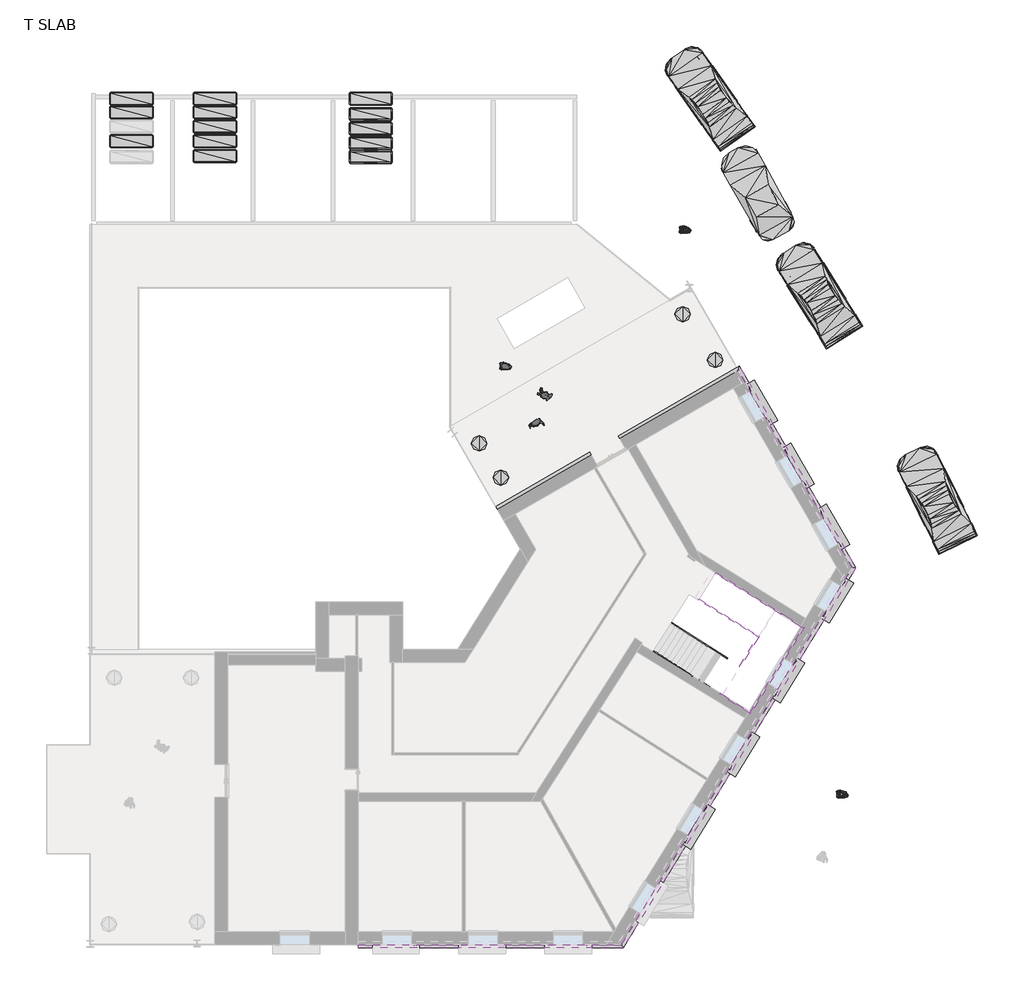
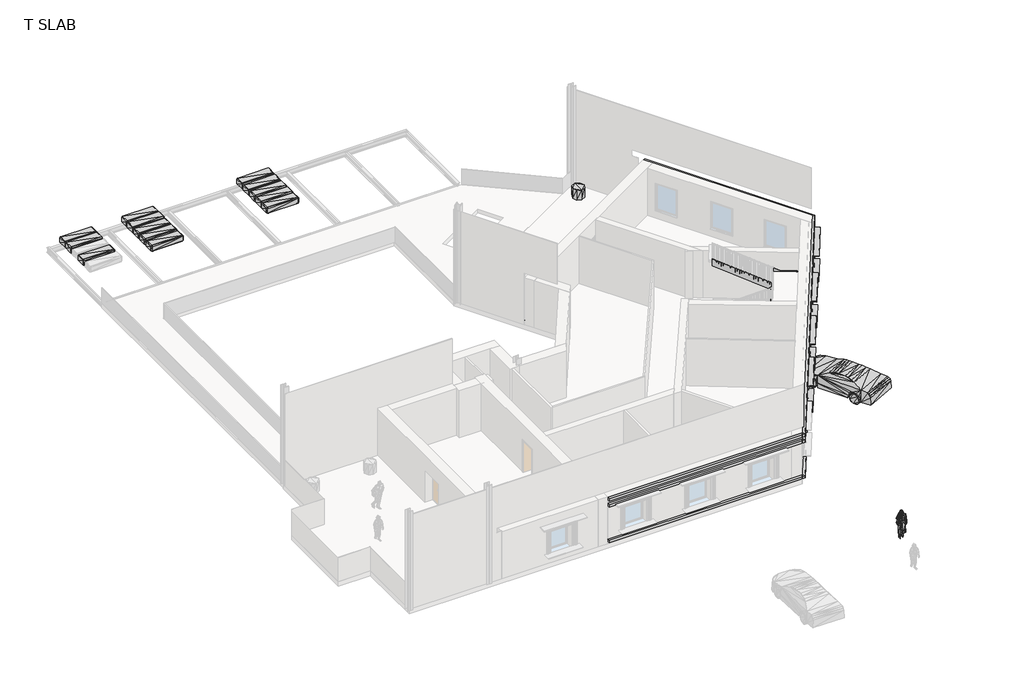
# One storey, part 3 of 3: 26 geographic elements, 10 proxies, 8 members.
"""IFC4 building model written with IfcOpenShell, lengths in millimetres."""

from ifc_helpers import new_model, si_unit, frame, origin, place, context, project, spatial, polyline, outline, extrude, faceted_brep, transform, mapped, element, save
from components import type_1_d73fb033, geographic_element_3335acbb, geographic_element_6e2c9092, geographic_element_03cdde9f, geographic_element_5954a063, geographic_element_3de9c337, enscape_assetdefinition_car_003_enscape_assetdefinition_car_cb408bfd, enscape_assetdefinition_car_006_enscape_assetdefinition_car_d59dc931

model = new_model("IFC4")

# Units and contexts
model_context = context("Model", 3, world=origin())
ifc_project = project(units=[si_unit("LENGTHUNIT", "METRE", prefix="MILLI")], contexts=[model_context])

# Site, building, storey
site = spatial("IfcSite", under=ifc_project)
building = spatial("IfcBuilding", under=site)
storey = spatial("IfcBuildingStorey", under=building, Name="T SLAB", Elevation=11500.0)

# Proxies
placement = place(None, origin())
element("IfcBuildingElementProxy", 1, Name="Cornice", ObjectType="Cornice", at=placement, inside=storey, context=model_context, shape_type="SweptSolid", body=[
    extrude(outline(polyline([(11036.4091885, -4009.9711746), (11121.8023054, -4162.3711746), (-1076.9484639, -4162.3711746), (-1076.9484639, -4009.9711746), (11036.4091885, -4009.9711746)])), frame((0.0, 0.0, 14400.0), z_axis=(0.0, 0.0, 1.0), x_axis=(1.0, 0.0, 0.0)), (0.0, 0.0, 1.0), 152.4),
    extrude(outline(polyline([(21667.737182, 13356.3028492), (21845.0304968, 13354.0218202), (11121.8023054, -4162.3711746), (11036.4091885, -4009.9711746), (21667.737182, 13356.3028492)])), frame((0.0, 0.0, 14400.0), z_axis=(0.0, 0.0, 1.0), x_axis=(1.0, 0.0, 0.0)), (0.0, 0.0, 1.0), 152.4),
    extrude(outline(polyline([(16417.1617815, 22450.5662118), (16549.1440531, 22526.7662118), (21845.0304968, 13354.0218202), (21667.737182, 13356.3028492), (16417.1617815, 22450.5662118)])), frame((0.0, 0.0, 14400.0), z_axis=(0.0, 0.0, 1.0), x_axis=(1.0, 0.0, 0.0)), (0.0, 0.0, 1.0), 152.4),
])
element("IfcBuildingElementProxy", 2, Name="Cornice", ObjectType="Cornice", at=placement, inside=storey, context=model_context, shape_type="SweptSolid", body=[
    extrude(outline(polyline([(11036.4091885, -4009.9711746), (11121.8023054, -4162.3711746), (-1076.9484639, -4162.3711746), (-1076.9484639, -4009.9711746), (11036.4091885, -4009.9711746)])), frame((0.0, 0.0, 14000.0), z_axis=(0.0, 0.0, 1.0), x_axis=(1.0, 0.0, 0.0)), (0.0, 0.0, 1.0), 152.4),
    extrude(outline(polyline([(21667.737182, 13356.3028492), (21845.0304968, 13354.0218202), (11121.8023054, -4162.3711746), (11036.4091885, -4009.9711746), (21667.737182, 13356.3028492)])), frame((0.0, 0.0, 14000.0), z_axis=(0.0, 0.0, 1.0), x_axis=(1.0, 0.0, 0.0)), (0.0, 0.0, 1.0), 152.4),
    extrude(outline(polyline([(16417.1617815, 22450.5662118), (16549.1440531, 22526.7662118), (21845.0304968, 13354.0218202), (21667.737182, 13356.3028492), (16417.1617815, 22450.5662118)])), frame((0.0, 0.0, 14000.0), z_axis=(0.0, 0.0, 1.0), x_axis=(1.0, 0.0, 0.0)), (0.0, 0.0, 1.0), 152.4),
])
element("IfcBuildingElementProxy", 3, Name="Cornice", ObjectType="Cornice", at=placement, inside=storey, context=model_context, shape_type="SweptSolid", body=[
    extrude(outline(polyline([(11036.4091885, -4009.9711746), (11121.8023054, -4162.3711746), (-1076.9484639, -4162.3711746), (-1076.9484639, -4009.9711746), (11036.4091885, -4009.9711746)])), frame((0.0, 0.0, 11652.4), z_axis=(0.0, 0.0, 1.0), x_axis=(1.0, 0.0, 0.0)), (0.0, 0.0, 1.0), 152.4),
    extrude(outline(polyline([(21667.737182, 13356.3028492), (21845.0304968, 13354.0218202), (11121.8023054, -4162.3711746), (11036.4091885, -4009.9711746), (21667.737182, 13356.3028492)])), frame((0.0, 0.0, 11652.4), z_axis=(0.0, 0.0, 1.0), x_axis=(1.0, 0.0, 0.0)), (0.0, 0.0, 1.0), 152.4),
    extrude(outline(polyline([(16417.1617815, 22450.5662118), (16472.9440531, 22658.7484834), (21845.0304968, 13354.0218202), (21667.737182, 13356.3028492), (16417.1617815, 22450.5662118)])), frame((0.0, 0.0, 11652.4), z_axis=(0.0, 0.0, 1.0), x_axis=(1.0, 0.0, 0.0)), (0.0, 0.0, 1.0), 152.4),
    extrude(outline(polyline([(16472.9440531, 22658.7484834), (16417.1617815, 22450.5662118), (10969.2740305, 19305.2267522), (10893.0740305, 19437.2090238), (16472.9440531, 22658.7484834)])), frame((0.0, 0.0, 11652.4), z_axis=(0.0, 0.0, 1.0), x_axis=(1.0, 0.0, 0.0)), (0.0, 0.0, 1.0), 152.4),
    extrude(outline(polyline([(5332.0366131, 16050.5662118), (5255.8366131, 16182.5484834), (9585.3756708, 18682.2090238), (9661.5756708, 18550.2267522), (5332.0366131, 16050.5662118)])), frame((0.0, 0.0, 11652.4), z_axis=(0.0, 0.0, 1.0), x_axis=(1.0, 0.0, 0.0)), (0.0, 0.0, 1.0), 152.4),
])
type_1_shape = type_1_d73fb033(model_context)
element("IfcBuildingElementProxy", 4, Name="Family1.rfa1222wcd31 : Type 1", ObjectType="Family1.rfa1222wcd31 : Type 1", at=placement, inside=storey, context=model_context, shape_type="MappedRepresentation", body=[
    mapped(type_1_shape, transform((14234.7402588, 1789.0884863, 11250.0), x_axis=(-0.5221151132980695, -0.852875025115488, 0.0), y_axis=(0.852875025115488, -0.5221151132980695, 0.0), z_axis=(0.0, 0.0, 1.0))),
])
element("IfcBuildingElementProxy", 5, Name="Family1.rfa1222wcd31 : Type 1", ObjectType="Family1.rfa1222wcd31 : Type 1", at=placement, inside=storey, context=model_context, shape_type="MappedRepresentation", body=[
    mapped(type_1_shape, transform((20617.5429885, 12215.396593, 11250.0), x_axis=(-0.5221151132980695, -0.852875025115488, 0.0), y_axis=(0.852875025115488, -0.5221151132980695, 0.0), z_axis=(0.0, 0.0, 1.0))),
])
element("IfcBuildingElementProxy", 6, Name="Family1.rfa1222wcd31 : Type 1", ObjectType="Family1.rfa1222wcd31 : Type 1", at=placement, inside=storey, context=model_context, shape_type="MappedRepresentation", body=[
    mapped(type_1_shape, transform((20315.4791604, 15098.4824476, 11250.0), x_axis=(0.4999999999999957, -0.8660254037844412, 0.0), y_axis=(0.8660254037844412, 0.4999999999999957, 0.0), z_axis=(0.0, 0.0, 1.0))),
])
element("IfcBuildingElementProxy", 7, Name="Family1.rfa1222wcd31 : Type 1", ObjectType="Family1.rfa1222wcd31 : Type 1", at=placement, inside=storey, context=model_context, shape_type="MappedRepresentation", body=[
    mapped(type_1_shape, transform((18695.009605, 17905.2180497, 11250.0), x_axis=(0.4999999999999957, -0.8660254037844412, 0.0), y_axis=(0.8660254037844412, 0.4999999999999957, 0.0), z_axis=(0.0, 0.0, 1.0))),
])
element("IfcBuildingElementProxy", 8, Name="Family1.rfa1222wcd31 : Type 1", ObjectType="Family1.rfa1222wcd31 : Type 1", at=placement, inside=storey, context=model_context, shape_type="MappedRepresentation", body=[
    mapped(type_1_shape, transform((17014.8541604, 20815.3326443, 11250.0), x_axis=(0.4999999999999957, -0.8660254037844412, 0.0), y_axis=(0.8660254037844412, 0.4999999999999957, 0.0), z_axis=(0.0, 0.0, 1.0))),
])
element("IfcBuildingElementProxy", 9, Name="Family1.rfa1222wcd31 : Type 1", ObjectType="Family1.rfa1222wcd31 : Type 1", at=placement, inside=storey, context=model_context, shape_type="MappedRepresentation", body=[
    mapped(type_1_shape, transform((18372.4480013, 8548.033985, 11250.0), x_axis=(-0.5221151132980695, -0.852875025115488, 0.0), y_axis=(0.852875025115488, -0.5221151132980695, 0.0), z_axis=(0.0, 0.0, 1.0))),
])
element("IfcBuildingElementProxy", 10, Name="Family1.rfa1222wcd31 : Type 1", ObjectType="Family1.rfa1222wcd31 : Type 1", at=placement, inside=storey, context=model_context, shape_type="MappedRepresentation", body=[
    mapped(type_1_shape, transform((16283.3466329, 5135.4869495, 11250.0), x_axis=(-0.5221151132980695, -0.852875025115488, 0.0), y_axis=(0.852875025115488, -0.5221151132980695, 0.0), z_axis=(0.0, 0.0, 1.0))),
])

# Geographic elements
geographic_element_shape = geographic_element_3335acbb(model_context)
element("IfcGeographicElement", 11, ObjectType="Enscape AssetDefinition - Bush 015 English Laurel : Enscape AssetDefinition - Bush 015 English Laurel", at=placement, inside=storey, context=model_context, shape_type="MappedRepresentation", body=[
    mapped(geographic_element_shape, transform((5493.3125017, 17512.9048562, 11500.0), x_axis=(1.0, 0.0, 0.0), y_axis=(0.0, 1.0, 0.0), z_axis=(0.0, 0.0, 1.0))),
])
element("IfcGeographicElement", 12, ObjectType="Enscape AssetDefinition - Bush 015 English Laurel : Enscape AssetDefinition - Bush 015 English Laurel", at=placement, inside=storey, context=model_context, shape_type="MappedRepresentation", body=[
    mapped(geographic_element_shape, transform((4493.3125017, 19090.0288254, 11500.0), x_axis=(1.0, 0.0, 0.0), y_axis=(0.0, 1.0, 0.0), z_axis=(0.0, 0.0, 1.0))),
])
element("IfcGeographicElement", 13, ObjectType="Enscape AssetDefinition - Bush 015 English Laurel : Enscape AssetDefinition - Bush 015 English Laurel", at=placement, inside=storey, context=model_context, shape_type="MappedRepresentation", body=[
    mapped(geographic_element_shape, transform((15360.5515361, 22930.6688407, 11500.0), x_axis=(1.0, 0.0, 0.0), y_axis=(0.0, 1.0, 0.0), z_axis=(0.0, 0.0, 1.0))),
])
element("IfcGeographicElement", 14, ObjectType="Enscape AssetDefinition - Bush 015 English Laurel : Enscape AssetDefinition - Bush 015 English Laurel", at=placement, inside=storey, context=model_context, shape_type="MappedRepresentation", body=[
    mapped(geographic_element_shape, transform((13860.5515361, 25034.896906, 11500.0), x_axis=(1.0, 0.0, 0.0), y_axis=(0.0, 1.0, 0.0), z_axis=(0.0, 0.0, 1.0))),
])
geographic_element_2_shape = geographic_element_6e2c9092(model_context)
element("IfcGeographicElement", 15, ObjectType="Enscape AssetDefinition - Hedge 006 English Laurel : Enscape AssetDefinition - Hedge 006 English Laurel", at=placement, inside=storey, context=model_context, shape_type="MappedRepresentation", body=[
    mapped(geographic_element_2_shape, transform((-501.6874983, 34969.4809735, 11500.0), x_axis=(1.0, 0.0, 0.0), y_axis=(0.0, 1.0, 0.0), z_axis=(0.0, 0.0, 1.0))),
])
element("IfcGeographicElement", 16, ObjectType="Enscape AssetDefinition - Hedge 006 English Laurel : Enscape AssetDefinition - Hedge 006 English Laurel", at=placement, inside=storey, context=model_context, shape_type="MappedRepresentation", body=[
    mapped(geographic_element_2_shape, transform((-7676.9484639, 34969.4809735, 11500.0), x_axis=(1.0, 0.0, 0.0), y_axis=(0.0, 1.0, 0.0), z_axis=(0.0, 0.0, 1.0))),
])
element("IfcGeographicElement", 17, ObjectType="Enscape AssetDefinition - Hedge 006 English Laurel : Enscape AssetDefinition - Hedge 006 English Laurel", at=placement, inside=storey, context=model_context, shape_type="MappedRepresentation", body=[
    mapped(geographic_element_2_shape, transform((-11521.6874983, 34969.4809735, 11500.0), x_axis=(1.0, 0.0, 0.0), y_axis=(0.0, 1.0, 0.0), z_axis=(0.0, 0.0, 1.0))),
])
element("IfcGeographicElement", 18, ObjectType="Enscape AssetDefinition - Hedge 006 English Laurel : Enscape AssetDefinition - Hedge 006 English Laurel", at=placement, inside=storey, context=model_context, shape_type="MappedRepresentation", body=[
    mapped(geographic_element_2_shape, transform((-11521.6874983, 34351.9809735, 11500.0), x_axis=(1.0, 0.0, 0.0), y_axis=(0.0, 1.0, 0.0), z_axis=(0.0, 0.0, 1.0))),
])
element("IfcGeographicElement", 19, ObjectType="Enscape AssetDefinition - Hedge 006 English Laurel : Enscape AssetDefinition - Hedge 006 English Laurel", at=placement, inside=storey, context=model_context, shape_type="MappedRepresentation", body=[
    mapped(geographic_element_2_shape, transform((-7676.9484639, 34351.9809735, 11500.0), x_axis=(1.0, 0.0, 0.0), y_axis=(0.0, 1.0, 0.0), z_axis=(0.0, 0.0, 1.0))),
])
element("IfcGeographicElement", 20, ObjectType="Enscape AssetDefinition - Hedge 006 English Laurel : Enscape AssetDefinition - Hedge 006 English Laurel", at=placement, inside=storey, context=model_context, shape_type="MappedRepresentation", body=[
    mapped(geographic_element_2_shape, transform((-7676.9484639, 33675.6346481, 11500.0), x_axis=(1.0, 0.0, 0.0), y_axis=(0.0, 1.0, 0.0), z_axis=(0.0, 0.0, 1.0))),
])
element("IfcGeographicElement", 21, ObjectType="Enscape AssetDefinition - Hedge 006 English Laurel : Enscape AssetDefinition - Hedge 006 English Laurel", at=placement, inside=storey, context=model_context, shape_type="MappedRepresentation", body=[
    mapped(geographic_element_2_shape, transform((-501.6874983, 34264.3281591, 11500.0), x_axis=(1.0, 0.0, 0.0), y_axis=(0.0, 1.0, 0.0), z_axis=(0.0, 0.0, 1.0))),
])
element("IfcGeographicElement", 22, ObjectType="Enscape AssetDefinition - Hedge 006 English Laurel : Enscape AssetDefinition - Hedge 006 English Laurel", at=placement, inside=storey, context=model_context, shape_type="MappedRepresentation", body=[
    mapped(geographic_element_2_shape, transform((-501.6874983, 32929.8270147, 11500.0), x_axis=(1.0, 0.0, 0.0), y_axis=(0.0, 1.0, 0.0), z_axis=(0.0, 0.0, 1.0))),
])
element("IfcGeographicElement", 23, ObjectType="Enscape AssetDefinition - Hedge 006 English Laurel : Enscape AssetDefinition - Hedge 006 English Laurel", at=placement, inside=storey, context=model_context, shape_type="MappedRepresentation", body=[
    mapped(geographic_element_2_shape, transform((-501.6874983, 33580.6772616, 11500.0), x_axis=(1.0, 0.0, 0.0), y_axis=(0.0, 1.0, 0.0), z_axis=(0.0, 0.0, 1.0))),
])
element("IfcGeographicElement", 24, ObjectType="Enscape AssetDefinition - Hedge 006 English Laurel : Enscape AssetDefinition - Hedge 006 English Laurel", at=placement, inside=storey, context=model_context, shape_type="MappedRepresentation", body=[
    mapped(geographic_element_2_shape, transform((-11521.6874983, 33013.9999525, 11500.0), x_axis=(1.0, 0.0, 0.0), y_axis=(0.0, 1.0, 0.0), z_axis=(0.0, 0.0, 1.0))),
])
element("IfcGeographicElement", 25, ObjectType="Enscape AssetDefinition - Hedge 006 English Laurel : Enscape AssetDefinition - Hedge 006 English Laurel", at=placement, inside=storey, context=model_context, shape_type="MappedRepresentation", body=[
    mapped(geographic_element_2_shape, transform((-7676.9484639, 33013.9999525, 11500.0), x_axis=(1.0, 0.0, 0.0), y_axis=(0.0, 1.0, 0.0), z_axis=(0.0, 0.0, 1.0))),
])
element("IfcGeographicElement", 26, ObjectType="Enscape AssetDefinition - Hedge 006 English Laurel : Enscape AssetDefinition - Hedge 006 English Laurel", at=placement, inside=storey, context=model_context, shape_type="MappedRepresentation", body=[
    mapped(geographic_element_2_shape, transform((-7676.9484639, 32313.9999525, 11500.0), x_axis=(1.0, 0.0, 0.0), y_axis=(0.0, 1.0, 0.0), z_axis=(0.0, 0.0, 1.0))),
])
element("IfcGeographicElement", 27, ObjectType="Enscape AssetDefinition - Hedge 006 English Laurel : Enscape AssetDefinition - Hedge 006 English Laurel", at=placement, inside=storey, context=model_context, shape_type="MappedRepresentation", body=[
    mapped(geographic_element_2_shape, transform((-501.6874983, 32287.4411665, 11500.0), x_axis=(1.0, 0.0, 0.0), y_axis=(0.0, 1.0, 0.0), z_axis=(0.0, 0.0, 1.0))),
])
geographic_element_3_shape = geographic_element_03cdde9f(model_context)
element("IfcGeographicElement", 28, ObjectType="Enscape AssetDefinition - Aamina 001 Standing : Enscape AssetDefinition - Aamina 001 Standing", at=placement, inside=storey, context=model_context, shape_type="MappedRepresentation", body=[
    mapped(geographic_element_3_shape, transform((21142.6063983, 2865.0288254, 0.0), x_axis=(1.0, 0.0, 0.0), y_axis=(0.0, 1.0, 0.0), z_axis=(0.0, 0.0, 1.0))),
])
element("IfcGeographicElement", 29, ObjectType="Enscape AssetDefinition - Aamina 001 Standing : Enscape AssetDefinition - Aamina 001 Standing", at=placement, inside=storey, context=model_context, shape_type="MappedRepresentation", body=[
    mapped(geographic_element_3_shape, transform((13901.9425222, 28879.987304, 150.0), x_axis=(1.0, 0.0, 0.0), y_axis=(0.0, 1.0, 0.0), z_axis=(0.0, 0.0, 1.0))),
])
element("IfcGeographicElement", 30, ObjectType="Enscape AssetDefinition - Aamina 001 Standing : Enscape AssetDefinition - Aamina 001 Standing", at=placement, inside=storey, context=model_context, shape_type="MappedRepresentation", body=[
    mapped(geographic_element_3_shape, transform((5632.0366131, 22592.1681881, 11500.0), x_axis=(1.0, 0.0, 0.0), y_axis=(0.0, 1.0, 0.0), z_axis=(0.0, 0.0, 1.0))),
])
geographic_element_4_shape = geographic_element_5954a063(model_context)
element("IfcGeographicElement", 31, ObjectType="Enscape AssetDefinition - Aimee 002 Standing : Enscape AssetDefinition - Aimee 002 Standing", at=placement, inside=storey, context=model_context, shape_type="MappedRepresentation", body=[
    mapped(geographic_element_4_shape, transform((7033.3125017, 19992.1681881, 11500.0), x_axis=(1.0, 0.0, 0.0), y_axis=(0.0, 1.0, 0.0), z_axis=(0.0, 0.0, 1.0))),
])
geographic_element_5_shape = geographic_element_3de9c337(model_context)
element("IfcGeographicElement", 32, ObjectType="Enscape AssetDefinition - Alex 004 Walking : Enscape AssetDefinition - Alex 004 Walking", at=placement, inside=storey, context=model_context, shape_type="MappedRepresentation", body=[
    mapped(geographic_element_5_shape, transform((7496.1132406, 21341.4483196, 11500.0), x_axis=(1.0, 0.0, 0.0), y_axis=(0.0, 1.0, 0.0), z_axis=(0.0, 0.0, 1.0))),
])
enscape_assetdefinition_car_003_enscape_assetdefinition_car_shape = enscape_assetdefinition_car_003_enscape_assetdefinition_car_cb408bfd(model_context)
element("IfcGeographicElement", 33, ObjectType="Enscape AssetDefinition - Car 003 : Enscape AssetDefinition - Car 003", at=placement, inside=storey, context=model_context, shape_type="MappedRepresentation", body=[
    mapped(enscape_assetdefinition_car_003_enscape_assetdefinition_car_shape, transform((25451.2460234, 16672.9678436, 0.0), x_axis=(0.8987940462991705, 0.4383711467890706, 0.0), y_axis=(-0.4383711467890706, 0.8987940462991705, 0.0), z_axis=(0.0, 0.0, 1.0))),
])
element("IfcGeographicElement", 34, ObjectType="Enscape AssetDefinition - Car 003 : Enscape AssetDefinition - Car 003", at=placement, inside=storey, context=model_context, shape_type="MappedRepresentation", body=[
    mapped(enscape_assetdefinition_car_003_enscape_assetdefinition_car_shape, transform((14956.7188923, 35169.1142232, 0.0), x_axis=(0.8191520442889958, 0.5735764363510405, 0.0), y_axis=(-0.5735764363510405, 0.8191520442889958, 0.0), z_axis=(0.0, 0.0, 1.0))),
])
element("IfcGeographicElement", 35, ObjectType="Enscape AssetDefinition - Car 003 : Enscape AssetDefinition - Car 003", at=placement, inside=storey, context=model_context, shape_type="MappedRepresentation", body=[
    mapped(enscape_assetdefinition_car_003_enscape_assetdefinition_car_shape, transform((19998.7670951, 26102.0965853, 0.0), x_axis=(0.8495879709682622, 0.5274469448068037, 0.0), y_axis=(-0.5274469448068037, 0.8495879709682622, 0.0), z_axis=(0.0, 0.0, 1.0))),
])
enscape_assetdefinition_car_006_enscape_assetdefinition_car_shape = enscape_assetdefinition_car_006_enscape_assetdefinition_car_d59dc931(model_context)
element("IfcGeographicElement", 36, ObjectType="Enscape AssetDefinition - Car 006 : Enscape AssetDefinition - Car 006", at=placement, inside=storey, context=model_context, shape_type="MappedRepresentation", body=[
    mapped(enscape_assetdefinition_car_006_enscape_assetdefinition_car_shape, transform((17183.7278303, 30857.5980178, 0.0), x_axis=(0.8746197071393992, 0.484809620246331, 0.0), y_axis=(-0.484809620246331, 0.8746197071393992, 0.0), z_axis=(0.0, 0.0, 1.0))),
])

# Members
element("IfcMember", 37, ObjectType="Stringer-50mm_Width", at=placement, inside=storey, context=model_context, shape_type="Brep", body=[
    faceted_brep([(13333.7710975, 10803.6073112, 11500.0), (13360.7054362, 10845.7326171, 11500.0), (13772.7568475, 10582.2726367, 11500.0), (13745.8225088, 10540.1473308, 11500.0), (16459.1802327, 8805.2638833, 13409.1031748), (16459.1802327, 8805.2638833, 13002.936984), (16485.6201831, 8847.7052942, 13002.6631408), (16485.6201831, 8847.7052942, 13409.1031748), (13333.7710975, 10803.6073112, 11713.1753632), (16395.5487208, 8845.948993, 13409.1031748), (13360.7054362, 10845.7326171, 11713.1753632), (16422.4830595, 8888.0742989, 13409.1031748)], [[[0, 1, 2, 3]], [[4, 5, 6, 7]], [[8, 0, 3, 5, 4, 9]], [[1, 10, 11, 7, 6, 2]], [[11, 9, 4, 7]], [[8, 10, 1, 0]], [[2, 6, 5, 3]], [[10, 8, 9, 11]]]),
])
element("IfcMember", 38, ObjectType="Stringer-50mm_Width", at=placement, inside=storey, context=model_context, shape_type="SweptSolid", body=[
    extrude(outline(polyline([(186.6666667, -400.0), (96.517904, -206.82408), (539.7123611, 0.0), (4108.298417, 0.0), (4197.0381516, -400.0), (186.6666667, -400.0)])), frame((12498.8065977, 9497.7228278, 11271.763487), z_axis=(0.5386867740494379, 0.8425061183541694, 0.0), x_axis=(0.7634648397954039, -0.4881488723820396, 0.4228854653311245)), (0.0, 0.0, 1.0), 50.0),
])
element("IfcMember", 39, ObjectType="Stringer-50mm_Width", at=placement, inside=storey, context=model_context, shape_type="SweptSolid", body=[
    extrude(outline(polyline([(-186.6666667, -400.0), (0.0, 0.0), (3586.4714941, 0.0), (3399.8048274, -400.0), (-186.6666667, -400.0)])), frame((17356.4678678, 10151.029683, 13579.8420299), z_axis=(0.528762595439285, 0.8487697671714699, 0.0), x_axis=(-0.7691408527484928, 0.47915574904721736, 0.4228854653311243)), (0.0, 0.0, 1.0), 50.0),
])
element("IfcMember", 40, ObjectType="Stringer-50mm_Width", at=placement, inside=storey, context=model_context, shape_type="SweptSolid", body=[
    extrude(outline(polyline([(-492.4870116, -400.0), (-403.747277, 0.0), (3586.4714941, 0.0), (3399.8048274, -400.0), (-492.4870116, -400.0)])), frame((18121.9733564, 11379.8191642, 13579.8420299), z_axis=(0.5287625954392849, 0.8487697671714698, 0.0), x_axis=(-0.7691408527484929, 0.4791557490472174, 0.42288546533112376)), (0.0, 0.0, 1.0), 50.0),
])
element("IfcMember", 41, ObjectType="Stringer-50mm_Width", at=placement, inside=storey, context=model_context, shape_type="SweptSolid", body=[
    extrude(outline(polyline([(17314.0293794, 10177.4678128), (17356.4678678, 10151.029683), (16501.3084396, 8778.3276897), (16459.1802327, 8805.2638833), (17314.0293794, 10177.4678128)])), frame((0.0, 0.0, 13009.1031748), z_axis=(0.0, 0.0, 1.0), x_axis=(1.0, 0.0, 0.0)), (0.0, 0.0, 1.0), 400.0),
])
element("IfcMember", 42, ObjectType="Stringer-50mm_Width", at=placement, inside=storey, context=model_context, shape_type="Brep", body=[
    faceted_brep([(15587.5185597, 7582.1898155, 13409.1031748), (15560.584221, 7540.0645096, 13409.1031748), (16987.6443899, 6627.6219504, 13409.1031748), (16971.9561334, 6696.9995549, 13409.1031748), (15662.2823292, 7534.3868941, 13009.1031748), (16971.9561334, 6696.9995549, 13009.1031748), (15635.3479904, 7492.2615881, 13009.1031748), (16987.6443899, 6627.6219504, 13009.1031748)], [[[0, 1, 2, 3]], [[4, 0, 3, 5]], [[6, 4, 5, 7]], [[1, 6, 7, 2]], [[1, 0, 4, 6]], [[2, 7, 5, 3]]]),
])
element("IfcMember", 43, ObjectType="Stringer-50mm_Width", at=placement, inside=storey, context=model_context, shape_type="SweptSolid", body=[
    extrude(outline(polyline([(16987.6443899, 6627.6219504), (16971.9561334, 6696.9995549), (19395.1280071, 10586.6752711), (19464.0046253, 10602.6756296), (16987.6443899, 6627.6219504)])), frame((0.0, 0.0, 13009.1031748), z_axis=(0.0, 0.0, 1.0), x_axis=(1.0, 0.0, 0.0)), (0.0, 0.0, 1.0), 400.0),
])
element("IfcMember", 44, ObjectType="Stringer-50mm_Width", at=placement, inside=storey, context=model_context, shape_type="Brep", body=[
    faceted_brep([(19395.1280071, 10586.6752711, 13409.1031748), (19464.0046253, 10602.6756296, 13409.1031748), (18458.9500111, 11228.7998236, 13409.1031748), (18432.5118813, 11186.3613353, 13409.1031748), (19395.1280071, 10586.6752711, 13009.1031748), (18357.1922773, 11233.2835877, 13009.1031748), (19464.0046253, 10602.6756296, 13009.1031748), (18383.6304071, 11275.7220761, 13009.1031748)], [[[0, 1, 2, 3]], [[4, 0, 3, 5]], [[6, 4, 5, 7]], [[1, 6, 7, 2]], [[1, 0, 4, 6]], [[2, 7, 5, 3]]]),
])

save(model, "model.ifc")
